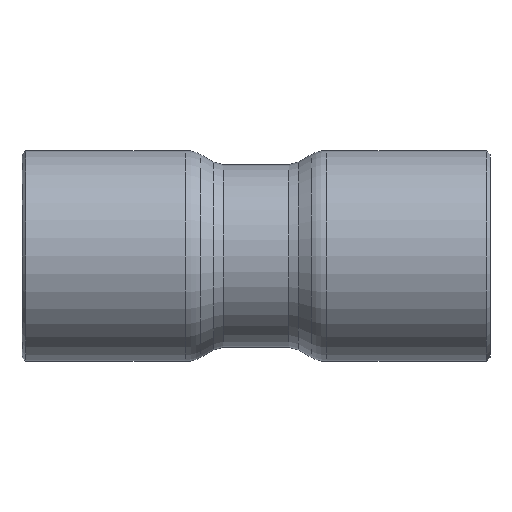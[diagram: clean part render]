
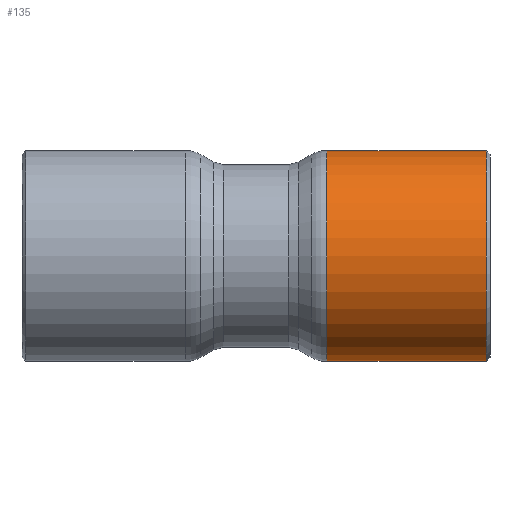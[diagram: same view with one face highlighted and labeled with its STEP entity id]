
A CAD part, front view. The second image highlights one B-rep face of the part: STEP entity #135.
In plain terms, the highlighted cylindrical face has radius 5.5 mm (diameter 11 mm), a full revolution.
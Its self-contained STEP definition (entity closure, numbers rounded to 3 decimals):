
#73=CARTESIAN_POINT('',(12.,5.5,0.));
#74=VERTEX_POINT('',#73);
#75=CARTESIAN_POINT('',(12.,0.0,0.0));
#76=DIRECTION('',(1.0,0.0,0.0));
#77=DIRECTION('',(0.0,-1.0,0.0));
#78=AXIS2_PLACEMENT_3D('',#75,#76,#77);
#79=CIRCLE('',#78,5.5);
#80=EDGE_CURVE('',#74,#74,#79,.T.);
#116=CARTESIAN_POINT('',(7.949,0.0,0.0));
#117=DIRECTION('',(1.0,0.0,0.0));
#118=DIRECTION('',(0.0,1.0,0.0));
#119=AXIS2_PLACEMENT_3D('',#116,#117,#118);
#120=CYLINDRICAL_SURFACE('',#119,5.5);
#121=CARTESIAN_POINT('',(3.698,5.5,0.0));
#122=VERTEX_POINT('',#121);
#123=CARTESIAN_POINT('',(3.698,0.0,0.0));
#124=DIRECTION('',(1.0,0.0,0.0));
#125=DIRECTION('',(0.0,1.0,0.0));
#126=AXIS2_PLACEMENT_3D('',#123,#124,#125);
#127=CIRCLE('',#126,5.5);
#128=EDGE_CURVE('',#122,#122,#127,.T.);
#129=ORIENTED_EDGE('',*,*,#128,.T.);
#130=EDGE_LOOP('',(#129));
#131=FACE_OUTER_BOUND('',#130,.T.);
#132=ORIENTED_EDGE('',*,*,#80,.F.);
#133=EDGE_LOOP('',(#132));
#134=FACE_BOUND('',#133,.T.);
#135=ADVANCED_FACE('',(#131,#134),#120,.T.);
